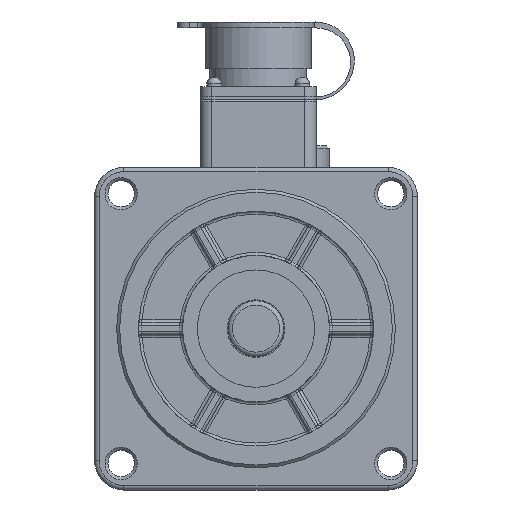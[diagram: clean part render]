
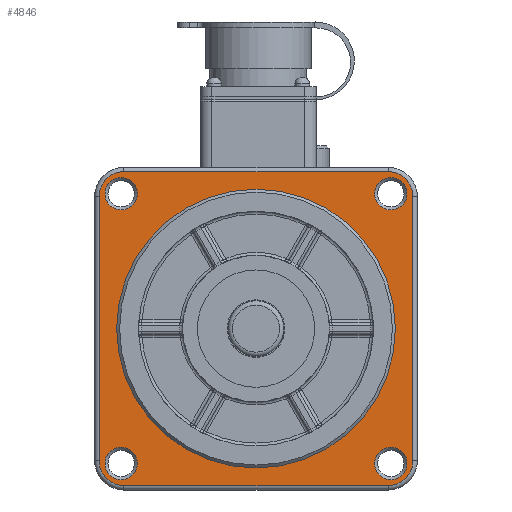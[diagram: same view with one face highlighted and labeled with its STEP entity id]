
A CAD part, front view. The second image highlights one B-rep face of the part: STEP entity #4846.
In plain terms, the highlighted planar face has unit normal (0, -1, 0).
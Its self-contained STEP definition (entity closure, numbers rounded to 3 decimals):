
#1814=LINE('',#28040,#2722);
#1815=LINE('',#28045,#2723);
#1816=LINE('',#28049,#2724);
#1817=LINE('',#28053,#2725);
#2722=VECTOR('',#21763,1.);
#2723=VECTOR('',#21766,1.);
#2724=VECTOR('',#21769,1.);
#2725=VECTOR('',#21772,1.);
#3244=PLANE('',#17716);
#4846=ADVANCED_FACE('',(#5659,#5660,#5661,#5662,#5663,#5664),#3244,.F.);
#5659=FACE_BOUND('',#6580,.T.);
#5660=FACE_BOUND('',#6581,.T.);
#5661=FACE_BOUND('',#6582,.T.);
#5662=FACE_BOUND('',#6583,.T.);
#5663=FACE_BOUND('',#6584,.T.);
#5664=FACE_BOUND('',#6585,.T.);
#6580=EDGE_LOOP('',(#9829,#9830,#9831,#9832,#9833,#9834,#9835,#9836));
#6581=EDGE_LOOP('',(#9837));
#6582=EDGE_LOOP('',(#9838));
#6583=EDGE_LOOP('',(#9839));
#6584=EDGE_LOOP('',(#9840));
#6585=EDGE_LOOP('',(#9841));
#9829=ORIENTED_EDGE('',*,*,#14486,.T.);
#9830=ORIENTED_EDGE('',*,*,#14487,.T.);
#9831=ORIENTED_EDGE('',*,*,#14488,.T.);
#9832=ORIENTED_EDGE('',*,*,#14489,.T.);
#9833=ORIENTED_EDGE('',*,*,#14490,.T.);
#9834=ORIENTED_EDGE('',*,*,#14491,.T.);
#9835=ORIENTED_EDGE('',*,*,#14492,.T.);
#9836=ORIENTED_EDGE('',*,*,#14493,.T.);
#9837=ORIENTED_EDGE('',*,*,#14469,.T.);
#9838=ORIENTED_EDGE('',*,*,#14494,.F.);
#9839=ORIENTED_EDGE('',*,*,#14495,.T.);
#9840=ORIENTED_EDGE('',*,*,#14496,.T.);
#9841=ORIENTED_EDGE('',*,*,#14497,.T.);
#12590=VERTEX_POINT('',#27976);
#12603=VERTEX_POINT('',#28041);
#12604=VERTEX_POINT('',#28042);
#12605=VERTEX_POINT('',#28044);
#12606=VERTEX_POINT('',#28046);
#12607=VERTEX_POINT('',#28048);
#12608=VERTEX_POINT('',#28050);
#12609=VERTEX_POINT('',#28052);
#12610=VERTEX_POINT('',#28054);
#12611=VERTEX_POINT('',#28057);
#12612=VERTEX_POINT('',#28059);
#12613=VERTEX_POINT('',#28061);
#12614=VERTEX_POINT('',#28063);
#14469=EDGE_CURVE('',#12590,#12590,#15944,.T.);
#14486=EDGE_CURVE('',#12603,#12604,#1814,.T.);
#14487=EDGE_CURVE('',#12604,#12605,#15957,.T.);
#14488=EDGE_CURVE('',#12605,#12606,#1815,.T.);
#14489=EDGE_CURVE('',#12606,#12607,#15958,.T.);
#14490=EDGE_CURVE('',#12607,#12608,#1816,.T.);
#14491=EDGE_CURVE('',#12608,#12609,#15959,.T.);
#14492=EDGE_CURVE('',#12609,#12610,#1817,.T.);
#14493=EDGE_CURVE('',#12610,#12603,#15960,.T.);
#14494=EDGE_CURVE('',#12611,#12611,#15961,.T.);
#14495=EDGE_CURVE('',#12612,#12612,#15962,.T.);
#14496=EDGE_CURVE('',#12613,#12613,#15963,.T.);
#14497=EDGE_CURVE('',#12614,#12614,#15964,.T.);
#15944=CIRCLE('',#17690,5.5);
#15957=CIRCLE('',#17708,8.5);
#15958=CIRCLE('',#17709,8.5);
#15959=CIRCLE('',#17710,8.5);
#15960=CIRCLE('',#17711,8.5);
#15961=CIRCLE('',#17712,47.5);
#15962=CIRCLE('',#17713,5.5);
#15963=CIRCLE('',#17714,5.5);
#15964=CIRCLE('',#17715,5.5);
#17690=AXIS2_PLACEMENT_3D('',#27975,#21725,#21726);
#17708=AXIS2_PLACEMENT_3D('',#28043,#21764,#21765);
#17709=AXIS2_PLACEMENT_3D('',#28047,#21767,#21768);
#17710=AXIS2_PLACEMENT_3D('',#28051,#21770,#21771);
#17711=AXIS2_PLACEMENT_3D('',#28055,#21773,#21774);
#17712=AXIS2_PLACEMENT_3D('',#28056,#21775,#21776);
#17713=AXIS2_PLACEMENT_3D('',#28058,#21777,#21778);
#17714=AXIS2_PLACEMENT_3D('',#28060,#21779,#21780);
#17715=AXIS2_PLACEMENT_3D('',#28062,#21781,#21782);
#17716=AXIS2_PLACEMENT_3D('',#28064,#21783,#21784);
#21725=DIRECTION('',(0.,1.,0.));
#21726=DIRECTION('',(-1.,0.,0.));
#21763=DIRECTION('',(0.,0.,1.));
#21764=DIRECTION('',(0.,-1.,0.));
#21765=DIRECTION('',(0.,0.,1.));
#21766=DIRECTION('',(-1.,0.,0.));
#21767=DIRECTION('',(0.,-1.,0.));
#21768=DIRECTION('',(0.,0.,1.));
#21769=DIRECTION('',(0.,0.,-1.));
#21770=DIRECTION('',(0.,-1.,0.));
#21771=DIRECTION('',(0.,0.,1.));
#21772=DIRECTION('',(1.,0.,0.));
#21773=DIRECTION('',(0.,-1.,0.));
#21774=DIRECTION('',(0.,0.,1.));
#21775=DIRECTION('',(0.,-1.,0.));
#21776=DIRECTION('',(-1.,0.,0.));
#21777=DIRECTION('',(0.,1.,0.));
#21778=DIRECTION('',(-1.,0.,0.));
#21779=DIRECTION('',(0.,1.,0.));
#21780=DIRECTION('',(-1.,0.,0.));
#21781=DIRECTION('',(0.,1.,0.));
#21782=DIRECTION('',(-1.,0.,0.));
#21783=DIRECTION('',(0.,1.,0.));
#21784=DIRECTION('',(1.,0.,0.));
#27975=CARTESIAN_POINT('',(401.086,101.922,-137.154));
#27976=CARTESIAN_POINT('',(395.586,101.922,-137.154));
#28040=CARTESIAN_POINT('',(408.624,101.922,-46.192));
#28041=CARTESIAN_POINT('',(408.624,101.922,-136.192));
#28042=CARTESIAN_POINT('',(408.624,101.922,-46.192));
#28043=CARTESIAN_POINT('',(400.124,101.922,-46.192));
#28044=CARTESIAN_POINT('',(400.124,101.922,-37.692));
#28045=CARTESIAN_POINT('',(310.124,101.922,-37.692));
#28046=CARTESIAN_POINT('',(310.124,101.922,-37.692));
#28047=CARTESIAN_POINT('',(310.124,101.922,-46.192));
#28048=CARTESIAN_POINT('',(301.624,101.922,-46.192));
#28049=CARTESIAN_POINT('',(301.624,101.922,-136.192));
#28050=CARTESIAN_POINT('',(301.624,101.922,-136.192));
#28051=CARTESIAN_POINT('',(310.124,101.922,-136.192));
#28052=CARTESIAN_POINT('',(310.124,101.922,-144.692));
#28053=CARTESIAN_POINT('',(400.124,101.922,-144.692));
#28054=CARTESIAN_POINT('',(400.124,101.922,-144.692));
#28055=CARTESIAN_POINT('',(400.124,101.922,-136.192));
#28056=CARTESIAN_POINT('',(355.124,101.922,-91.192));
#28057=CARTESIAN_POINT('',(307.624,101.922,-91.192));
#28058=CARTESIAN_POINT('',(401.086,101.922,-45.23));
#28059=CARTESIAN_POINT('',(395.586,101.922,-45.23));
#28060=CARTESIAN_POINT('',(309.162,101.922,-45.23));
#28061=CARTESIAN_POINT('',(303.662,101.922,-45.23));
#28062=CARTESIAN_POINT('',(309.162,101.922,-137.154));
#28063=CARTESIAN_POINT('',(303.662,101.922,-137.154));
#28064=CARTESIAN_POINT('',(355.124,101.922,-91.192));
